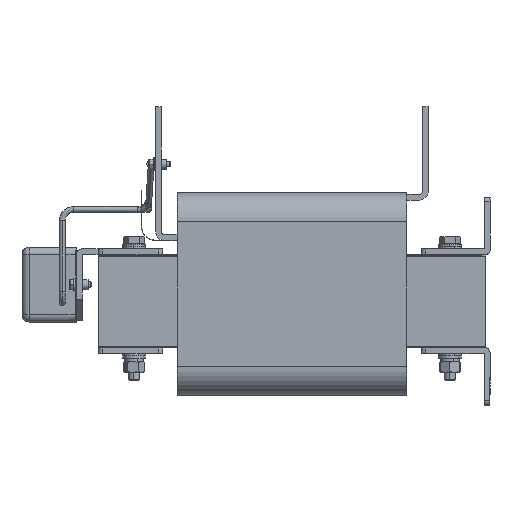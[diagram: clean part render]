
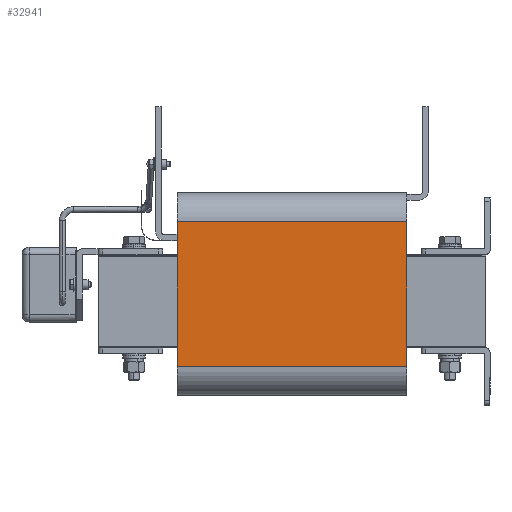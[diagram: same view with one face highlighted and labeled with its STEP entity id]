
A CAD part, left-side view. The second image highlights one B-rep face of the part: STEP entity #32941.
In plain terms, the highlighted planar face has unit normal (-1, 0, 0).
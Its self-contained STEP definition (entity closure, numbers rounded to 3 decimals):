
#815 = EDGE_CURVE ( 'NONE', #17006, #25017, #11698, .T. ) ;
#1257 = ORIENTED_EDGE ( 'NONE', *, *, #1718, .F. ) ;
#1718 = EDGE_CURVE ( 'NONE', #33908, #17006, #29127, .T. ) ;
#2551 = VECTOR ( 'NONE', #11711, 1000. ) ;
#3490 = EDGE_CURVE ( 'NONE', #4362, #25017, #8630, .T. ) ;
#4163 = DIRECTION ( 'NONE',  ( 0., 0., -1. ) ) ;
#4362 = VERTEX_POINT ( 'NONE', #37203 ) ;
#5255 = EDGE_CURVE ( 'NONE', #4362, #33908, #9548, .T. ) ;
#8630 = LINE ( 'NONE', #34444, #2551 ) ;
#9161 = DIRECTION ( 'NONE',  ( 0., -1., 0. ) ) ;
#9177 = CARTESIAN_POINT ( 'NONE',  ( -54., -80., 55.5 ) ) ;
#9269 = ORIENTED_EDGE ( 'NONE', *, *, #5255, .F. ) ;
#9548 = LINE ( 'NONE', #15266, #25907 ) ;
#10061 = CARTESIAN_POINT ( 'NONE',  ( -54., -80., -45.5 ) ) ;
#11698 = LINE ( 'NONE', #17203, #15196 ) ;
#11711 = DIRECTION ( 'NONE',  ( 0., 0., -1. ) ) ;
#13882 = CARTESIAN_POINT ( 'NONE',  ( -54., -80., 55.5 ) ) ;
#15196 = VECTOR ( 'NONE', #28765, 1000. ) ;
#15266 = CARTESIAN_POINT ( 'NONE',  ( -54., 80., 55.5 ) ) ;
#17006 = VERTEX_POINT ( 'NONE', #10061 ) ;
#17203 = CARTESIAN_POINT ( 'NONE',  ( -54., 80., -45.5 ) ) ;
#17544 = AXIS2_PLACEMENT_3D ( 'NONE', #35681, #30197, #4163 ) ;
#18647 = FACE_OUTER_BOUND ( 'NONE', #27937, .T. ) ;
#19360 = ORIENTED_EDGE ( 'NONE', *, *, #3490, .T. ) ;
#23249 = DIRECTION ( 'NONE',  ( 0., 0., -1. ) ) ;
#25017 = VERTEX_POINT ( 'NONE', #36303 ) ;
#25907 = VECTOR ( 'NONE', #9161, 1000. ) ;
#27338 = ORIENTED_EDGE ( 'NONE', *, *, #815, .F. ) ;
#27937 = EDGE_LOOP ( 'NONE', ( #9269, #19360, #27338, #1257 ) ) ;
#28765 = DIRECTION ( 'NONE',  ( 0., 1., 0. ) ) ;
#29127 = LINE ( 'NONE', #9177, #32198 ) ;
#30197 = DIRECTION ( 'NONE',  ( 1., 0., 0. ) ) ;
#32198 = VECTOR ( 'NONE', #23249, 1000. ) ;
#32475 = PLANE ( 'NONE',  #17544 ) ;
#32941 = ADVANCED_FACE ( 'NONE', ( #18647 ), #32475, .F. ) ;
#33908 = VERTEX_POINT ( 'NONE', #13882 ) ;
#34444 = CARTESIAN_POINT ( 'NONE',  ( -54., 80., 55.5 ) ) ;
#35681 = CARTESIAN_POINT ( 'NONE',  ( -54., 80., -45.5 ) ) ;
#36303 = CARTESIAN_POINT ( 'NONE',  ( -54., 80., -45.5 ) ) ;
#37203 = CARTESIAN_POINT ( 'NONE',  ( -54., 80., 55.5 ) ) ;
